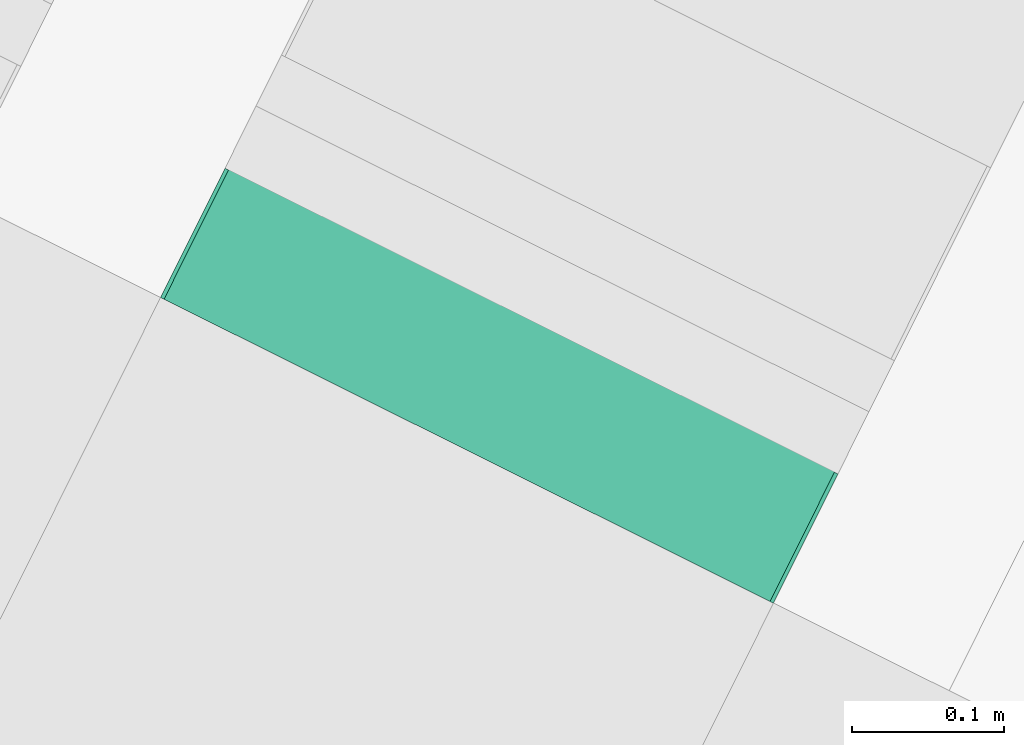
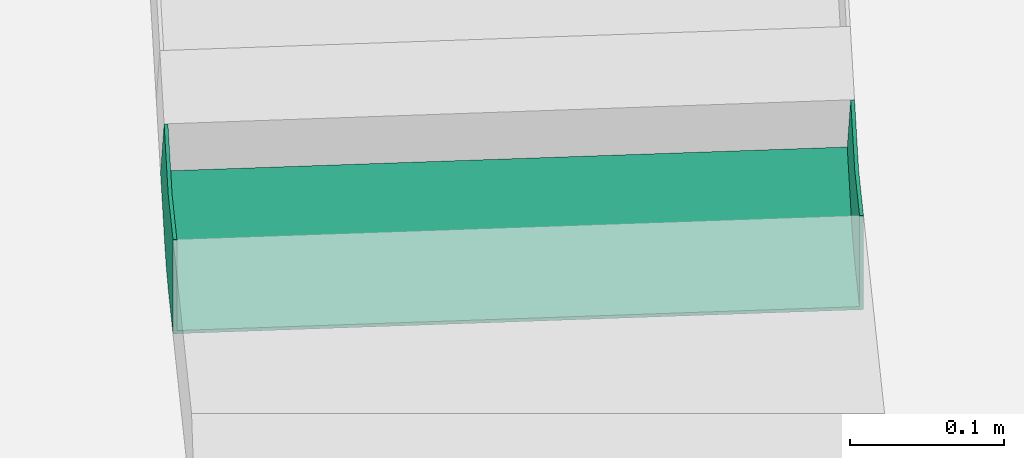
# One storey, part 32 of 47: 1 flow fitting.
"""IFC2X3 building model written with IfcOpenShell, lengths in metres."""

from ifc_helpers import new_model, entity, si_unit, converted_unit, derived_unit, direction, frame, origin, place, context, subcontext, project, spatial, faceted_brep, source, transform, mapped, type_object, type_shapes, element, save


model = new_model("IFC2X3")

# Units and contexts
model_context = context("Model", 3, precision=1e-05, world=origin(), true_north=direction((0.894925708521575, 0.446215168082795)))
context_of_model = context(None, 3, precision=1e-05, world=origin(), true_north=direction((0.894925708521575, 0.446215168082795)))
body_context = subcontext(model_context, "Body", "Model", "MODEL_VIEW")
ifc_project = project(units=[si_unit("LENGTHUNIT", "METRE"), si_unit("AREAUNIT", "SQUARE_METRE"), si_unit("VOLUMEUNIT", "CUBIC_METRE"), converted_unit("PLANEANGLEUNIT", "DEGREE", entity("IfcRatioMeasure", 0.0174532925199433), si_unit("PLANEANGLEUNIT", "RADIAN"), dimensions=[0, 0, 0, 0, 0, 0, 0]), si_unit("MASSUNIT", "GRAM", prefix="KILO"), si_unit("TIMEUNIT", "SECOND"), si_unit("FREQUENCYUNIT", "HERTZ"), si_unit("THERMODYNAMICTEMPERATUREUNIT", "DEGREE_CELSIUS"), derived_unit("THERMALTRANSMITTANCEUNIT", [(si_unit("MASSUNIT", "GRAM", prefix="KILO"), 1), (si_unit("THERMODYNAMICTEMPERATUREUNIT", "KELVIN"), -1), (si_unit("TIMEUNIT", "SECOND"), -3)]), derived_unit("VOLUMETRICFLOWRATEUNIT", [(si_unit("LENGTHUNIT", "METRE"), 3), (si_unit("TIMEUNIT", "SECOND"), -1)]), si_unit("ELECTRICCURRENTUNIT", "AMPERE"), si_unit("ELECTRICVOLTAGEUNIT", "VOLT"), si_unit("POWERUNIT", "WATT"), si_unit("FORCEUNIT", "NEWTON", prefix="KILO"), si_unit("ILLUMINANCEUNIT", "LUX"), si_unit("LUMINOUSFLUXUNIT", "LUMEN"), si_unit("LUMINOUSINTENSITYUNIT", "CANDELA"), si_unit("PRESSUREUNIT", "PASCAL")], contexts=[model_context, context_of_model])

# Site, building, storey
site_placement = place(None, frame((218.228324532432, 584.720189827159, 0.0), z_axis=(0.0, 0.0, 1.0), x_axis=(0.446215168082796, 0.894925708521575, 0.0)))
site = spatial("IfcSite", under=ifc_project, at=site_placement, Name="Default", CompositionType="ELEMENT")
building_placement = place(site_placement, origin())
building = spatial("IfcBuilding", under=site, at=building_placement, CompositionType="ELEMENT")
storey_placement = place(building_placement, frame((0.0, 0.0, 4.69)))
storey = spatial("IfcBuildingStorey", under=building, at=storey_placement, Name="1 - Piano Primo", CompositionType="ELEMENT", Elevation=4.69)

# Flow fitting
cable_carrier_fitting_type = type_object("IfcCableCarrierFittingType", Name="Standard", PredefinedType="NOTDEFINED")
shared_shape = source(origin(), body_context, "Body", "Brep", [
    faceted_brep([(-0.0608988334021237, -0.0349600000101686, -0.222460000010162), (-0.0608988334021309, 0.0374999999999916, -0.222460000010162), (-0.0608988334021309, 0.0374999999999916, -0.225000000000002), (-0.0608988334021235, -0.0375000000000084, -0.225000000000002), (-0.0608988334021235, -0.0375000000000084, 0.224999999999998), (-0.0608988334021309, 0.0374999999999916, 0.224999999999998), (-0.0608988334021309, 0.0374999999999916, 0.222460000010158), (-0.0608988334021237, -0.0349600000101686, 0.222460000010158), (0.0339899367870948, 0.0629253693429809, -0.225000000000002), (0.0339899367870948, 0.0629253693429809, -0.222460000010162), (0.0702199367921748, 0.00017316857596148, -0.222460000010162), (0.0702199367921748, 0.000173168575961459, 0.222460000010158), (0.0339899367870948, 0.0629253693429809, 0.222460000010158), (0.0339899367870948, 0.0629253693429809, 0.224999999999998), (0.0714899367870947, -0.00202653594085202, 0.224999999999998), (0.0714899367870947, -0.00202653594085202, -0.225000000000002), (-0.0108988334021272, -0.0375000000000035, 0.224999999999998), (0.00933434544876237, -0.0348362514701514, 0.224999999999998), (0.0281886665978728, -0.027026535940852, 0.224999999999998), (-0.00931133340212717, 0.0379253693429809, 0.224999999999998), (-0.0100770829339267, 0.0376081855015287, 0.224999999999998), (-0.0108988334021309, 0.0374999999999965, 0.224999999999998), (-0.0108988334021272, -0.0375000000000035, -0.225000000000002), (-0.0108988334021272, -0.0375000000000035, -0.0837247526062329), (-0.0108988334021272, -0.0375000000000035, 0.0706376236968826), (-0.0108988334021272, 0.0374999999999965, -0.225000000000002), (-0.0100770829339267, 0.0376081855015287, -0.225000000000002), (-0.00931133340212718, 0.0379253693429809, -0.225000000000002), (0.0281886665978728, -0.027026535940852, -0.225000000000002), (0.00933434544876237, -0.0348362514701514, -0.225000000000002), (-0.0108988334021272, 0.0374999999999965, -0.222460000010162), (-0.0108988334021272, 0.0374999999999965, 0.222460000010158), (-0.0108988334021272, -0.0349600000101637, -0.222460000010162), (0.00867694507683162, -0.0323827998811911, -0.222460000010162), (0.0269186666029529, -0.0248268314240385, -0.222460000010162), (-0.00931133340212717, 0.0379253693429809, -0.222460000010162), (-0.0100770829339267, 0.0376081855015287, -0.222460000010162), (-0.0108988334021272, -0.0349600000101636, 0.222460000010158), (-0.0108988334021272, -0.0349600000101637, 0.0706260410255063), (-0.0108988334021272, -0.0349600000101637, -0.0812079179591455), (-0.0100770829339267, 0.0376081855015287, 0.222460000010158), (-0.00931133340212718, 0.0379253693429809, 0.222460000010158), (0.0269186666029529, -0.0248268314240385, 0.222460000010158), (0.00867694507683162, -0.0323827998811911, 0.222460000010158), (0.0281886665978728, -0.027026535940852, -0.0837247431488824), (0.0281886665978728, -0.027026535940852, 0.0706376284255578), (0.00933434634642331, -0.0348362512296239, -0.00654356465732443), (0.0269186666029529, -0.0248268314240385, -0.0812079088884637), (0.0269186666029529, -0.0248268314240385, 0.0706260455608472), (0.00867694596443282, -0.0323827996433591, -0.00529093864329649)], [[[0, 1, 2, 3, 4, 5, 6, 7]], [[8, 9, 10, 11, 12, 13, 14, 15]], [[4, 16, 17, 18, 14, 13, 19, 20, 21, 5]], [[4, 3, 22, 23, 24, 16]], [[2, 25, 26, 27, 8, 15, 28, 29, 22, 3]], [[2, 1, 30, 25]], [[6, 5, 21, 31]], [[0, 32, 33, 34, 10, 9, 35, 36, 30, 1]], [[0, 7, 37, 38, 39, 32]], [[6, 31, 40, 41, 12, 11, 42, 43, 37, 7]], [[44, 29, 28]], [[18, 17, 45]], [[46, 44, 45]], [[17, 16, 24]], [[29, 23, 22]], [[29, 46, 23]], [[24, 46, 17]], [[46, 29, 44]], [[45, 17, 46]], [[23, 46, 24]], [[30, 36, 26, 25]], [[20, 40, 31, 21]], [[35, 27, 26, 36]], [[19, 41, 40, 20]], [[34, 33, 47]], [[48, 43, 42]], [[48, 47, 49]], [[38, 37, 43]], [[32, 39, 33]], [[39, 49, 33]], [[43, 49, 38]], [[47, 33, 49]], [[49, 43, 48]], [[38, 49, 39]], [[15, 14, 18, 45, 44, 28]], [[27, 35, 9, 8]], [[41, 19, 13, 12]], [[11, 10, 34, 47, 48, 42]]]),
])
type_shapes(cable_carrier_fitting_type, [shared_shape])
flow_fitting_placement = place(storey_placement, frame((11.5550962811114, -3.72607899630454, 2.83025102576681), z_axis=(0.0, -1.0, 0.0), x_axis=(1.0, 0.0, 0.0)))
element("IfcFlowFitting", 1, at=flow_fitting_placement, inside=storey, type_object=cable_carrier_fitting_type, Name="M_Curvatura interna verticale canale:Standard", ObjectType="Standard", context=body_context, shape_type="MappedRepresentation", body=[
    mapped(shared_shape, transform((0.0, 0.0, 0.0), scale=1.0)),
])

save(model, "model.ifc")
